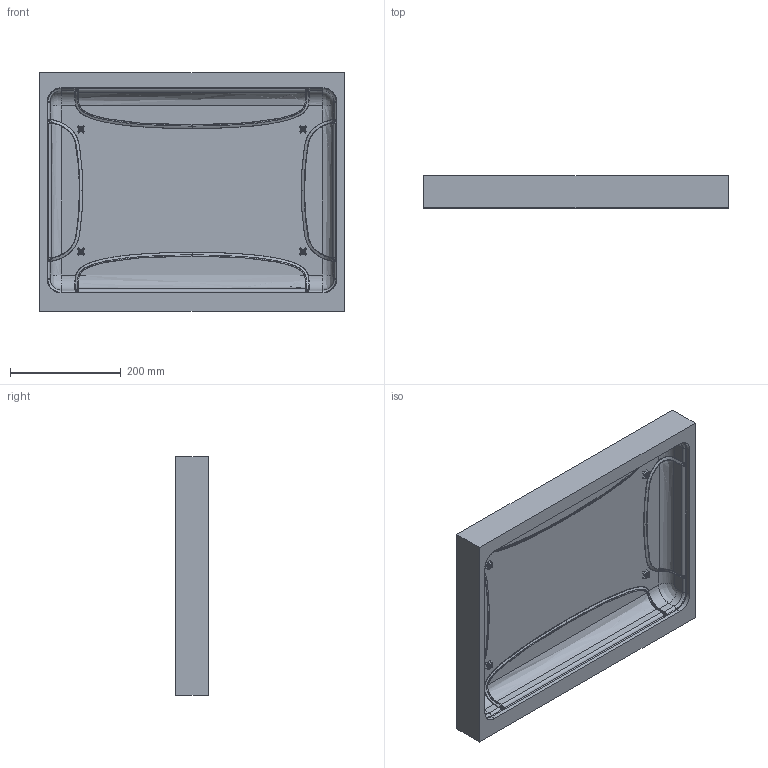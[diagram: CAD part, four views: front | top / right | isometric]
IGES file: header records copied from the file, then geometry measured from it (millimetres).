
Start section: SolidWorks IGES file using analytic representation for surfaces
Global section: file name: C:\Working Folder\940 screws\Screw post\NANUK_940_Top.IGS; native system: SolidWorks 2015; preprocessor: SolidWorks 2015; author: MKeighan; date: 181001.142704; units: millimetre
Bounding box: 549.72 x 57.84 x 429.23 mm (x, y, z)
Surface area: 652070.8 mm2 (no closed solid volume)
Topology: 0 solids, 0 shells, 535 faces, 6215 edges, 6215 vertices
Faces by surface type: bspline 363, revolution 172
